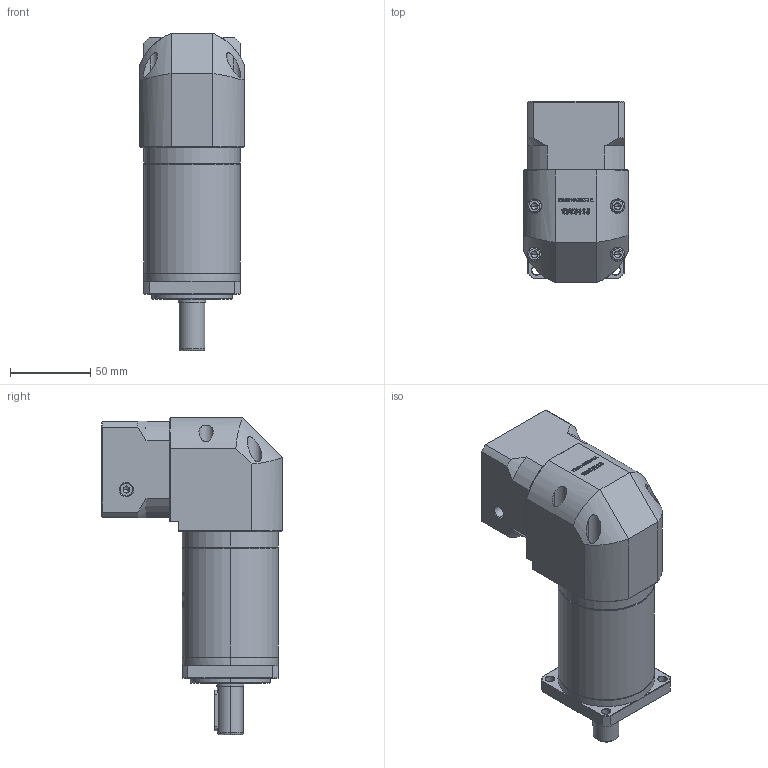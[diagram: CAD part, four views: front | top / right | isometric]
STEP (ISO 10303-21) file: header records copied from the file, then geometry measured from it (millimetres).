
FILE_DESCRIPTION (( 'STEP AP214' ), '1' );
FILE_NAME ('ZFR60-D16-L3-6.35-38.1-47.14x47.14-M4.STEP', '2022-04-20T08:05:51', ( '' ), ( 'Microsoft' ), 'SwSTEP 2.0', 'SolidWorks 2016', '' );
FILE_SCHEMA (( 'AUTOMOTIVE_DESIGN' ));
Length unit declared in the file: millimetre
Products named in the file (1): ZFR60-D16-L3-6.35-38.1-47.14x47.14-M4
Bounding box: 65 x 112.7 x 197.5 mm (x, y, z)
Volume: 642512.3 mm3; surface area: 86823.6 mm2
Topology: 5 solids, 6 shells, 2688 faces, 7303 edges, 4753 vertices
Faces by surface type: plane 1398, bspline 591, cylinder 396, cone 291, torus 12
Entity records: 147105 total; most frequent: CARTESIAN_POINT 55416, ORIENTED_EDGE 14562, DIRECTION 10428, EDGE_CURVE 7281, VERTEX_POINT 4753, LINE 4382, VECTOR 4382, AXIS2_PLACEMENT_3D 3023
